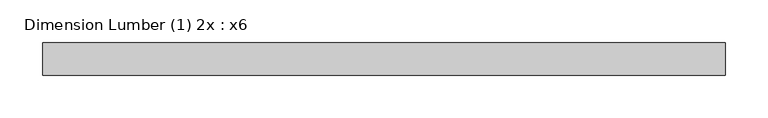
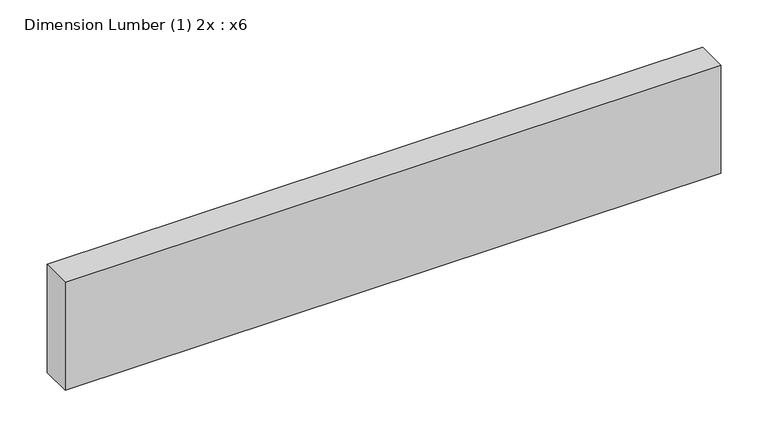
"""IFC4 building model written with IfcOpenShell, lengths in millimetres: beam geometry, Dimension Lumber (1) 2x : x6."""

from ifc_helpers import new_model, si_unit, frame, origin, place, context, project, spatial, polyline, outline, extrude, source, transform, mapped, element, save


def dimension_lumber_1_2x_x6_d0225624(model_context):
    return source(origin(), model_context, "Body", "SweptSolid", [
        extrude(outline(polyline([(400.05, 19.05), (400.05, -19.05), (-400.05, -19.05), (-400.05, 19.05), (400.05, 19.05)])), frame((0.0, 0.0, -69.85), z_axis=(0.0, 0.0, 1.0), x_axis=(1.0, 0.0, 0.0)), (0.0, 0.0, 1.0), 139.7),
    ])


if __name__ == "__main__":
    model = new_model("IFC4")
    model_context = context("Model", 3, world=origin())
    ifc_project = project(units=[si_unit("LENGTHUNIT", "METRE", prefix="MILLI")], contexts=[model_context])
    site = spatial("IfcSite", under=ifc_project)
    building = spatial("IfcBuilding", under=site)
    placement = place(None, origin())
    dimension_lumber_1_2x_x6_shape = dimension_lumber_1_2x_x6_d0225624(model_context)
    element("IfcBeam", 1, ObjectType="Dimension Lumber (1) 2x : x6", at=placement, inside=building, context=model_context, shape_type="MappedRepresentation", body=[
        mapped(dimension_lumber_1_2x_x6_shape, transform((0.0, 0.0, 0.0), x_axis=(1.0, 0.0, 0.0), y_axis=(0.0, 1.0, 0.0), z_axis=(0.0, 0.0, 1.0))),
    ])
    save(model, "model.ifc")
